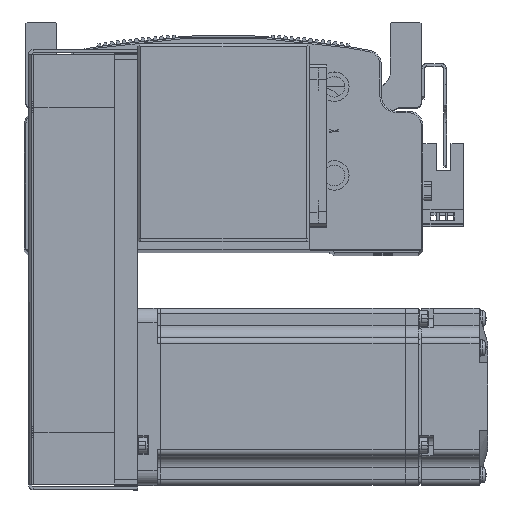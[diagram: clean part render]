
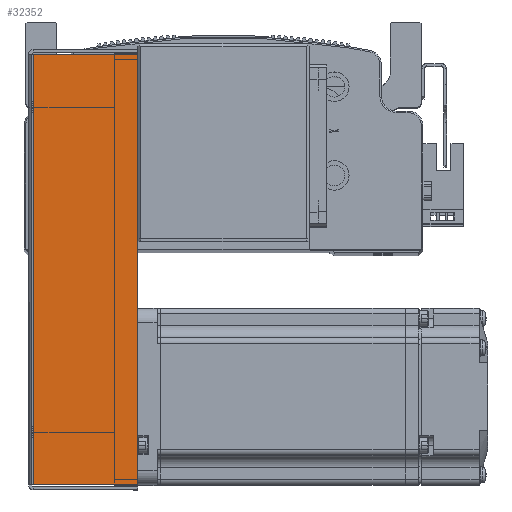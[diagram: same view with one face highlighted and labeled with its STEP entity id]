
A CAD part, top view. The second image highlights one B-rep face of the part: STEP entity #32352.
In plain terms, the highlighted planar face has unit normal (0, 0, 1) as drawn and (0, 0, -1) by its records, which use the part's own axes.
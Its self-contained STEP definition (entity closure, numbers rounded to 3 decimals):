
#8883 = VERTEX_POINT ( 'NONE', #71958 ) ;
#8891 = VERTEX_POINT ( 'NONE', #71973 ) ;
#8920 = VERTEX_POINT ( 'NONE', #72060 ) ;
#8969 = VERTEX_POINT ( 'NONE', #72187 ) ;
#9681 = LINE ( 'NONE', #39025, #9769 ) ;
#9727 = LINE ( 'NONE', #38970, #9742 ) ;
#9742 = VECTOR ( 'NONE', #38968, 1000. ) ;
#9769 = VECTOR ( 'NONE', #39026, 1000. ) ;
#9867 = VECTOR ( 'NONE', #39290, 1000. ) ;
#9895 = VECTOR ( 'NONE', #39176, 1000. ) ;
#9938 = LINE ( 'NONE', #39289, #9867 ) ;
#9961 = LINE ( 'NONE', #39217, #9895 ) ;
#29390 = DIRECTION ( 'NONE',  ( 0., 0., 1. ) ) ;
#29400 = PLANE ( 'NONE',  #57768 ) ;
#29404 = CARTESIAN_POINT ( 'NONE',  ( 0., 0., -34.5 ) ) ;
#29420 = DIRECTION ( 'NONE',  ( 0., -1., 0. ) ) ;
#32352 = ADVANCED_FACE ( 'NONE', ( #51766 ), #29400, .F. ) ;
#38968 = DIRECTION ( 'NONE',  ( 1., 0., 0. ) ) ;
#38970 = CARTESIAN_POINT ( 'NONE',  ( 74.5, 0.737, -34.5 ) ) ;
#39025 = CARTESIAN_POINT ( 'NONE',  ( -72.793, 0., -34.5 ) ) ;
#39026 = DIRECTION ( 'NONE',  ( 0., 1., 0. ) ) ;
#39176 = DIRECTION ( 'NONE',  ( 1., 0., 0. ) ) ;
#39217 = CARTESIAN_POINT ( 'NONE',  ( 0., 36., -34.5 ) ) ;
#39289 = CARTESIAN_POINT ( 'NONE',  ( 72.793, 0., -34.5 ) ) ;
#39290 = DIRECTION ( 'NONE',  ( 0., 1., 0. ) ) ;
#51766 = FACE_OUTER_BOUND ( 'NONE', #77263, .T. ) ;
#52329 = EDGE_CURVE ( 'NONE', #8891, #8969, #9727, .T. ) ;
#52355 = EDGE_CURVE ( 'NONE', #8891, #8920, #9681, .T. ) ;
#52420 = EDGE_CURVE ( 'NONE', #8920, #8883, #9961, .T. ) ;
#52450 = EDGE_CURVE ( 'NONE', #8969, #8883, #9938, .T. ) ;
#56122 = ORIENTED_EDGE ( 'NONE', *, *, #52329, .F. ) ;
#56131 = ORIENTED_EDGE ( 'NONE', *, *, #52450, .F. ) ;
#56139 = ORIENTED_EDGE ( 'NONE', *, *, #52420, .T. ) ;
#56175 = ORIENTED_EDGE ( 'NONE', *, *, #52355, .T. ) ;
#57768 = AXIS2_PLACEMENT_3D ( 'NONE', #29404, #29390, #29420 ) ;
#71958 = CARTESIAN_POINT ( 'NONE',  ( 72.793, 36., -34.5 ) ) ;
#71973 = CARTESIAN_POINT ( 'NONE',  ( -72.793, 0.737, -34.5 ) ) ;
#72060 = CARTESIAN_POINT ( 'NONE',  ( -72.793, 36., -34.5 ) ) ;
#72187 = CARTESIAN_POINT ( 'NONE',  ( 72.793, 0.737, -34.5 ) ) ;
#77263 = EDGE_LOOP ( 'NONE', ( #56122, #56175, #56139, #56131 ) ) ;
